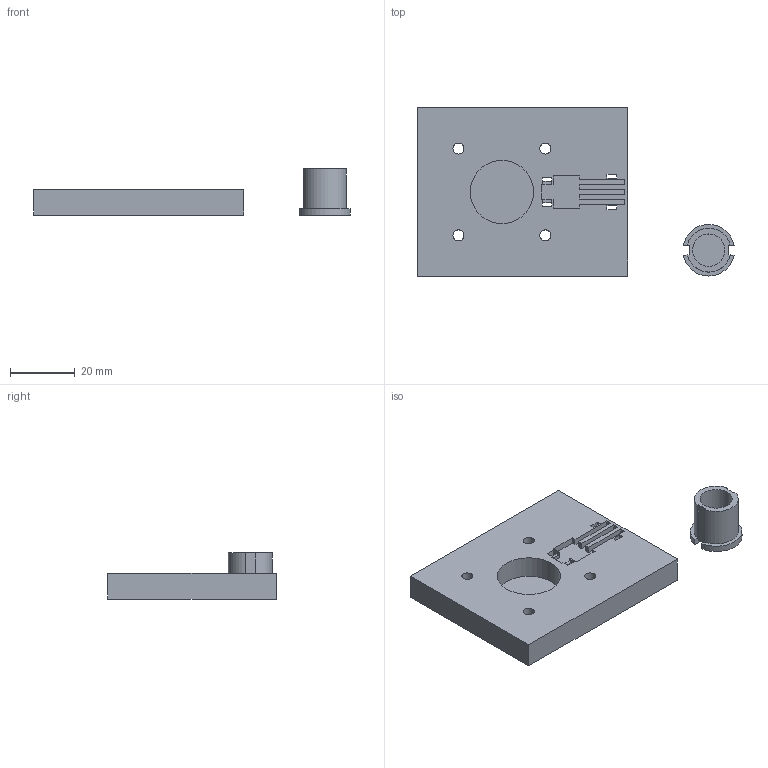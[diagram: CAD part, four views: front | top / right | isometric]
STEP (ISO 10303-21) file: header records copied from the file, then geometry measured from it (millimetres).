
FILE_DESCRIPTION(('Open CASCADE Model'),'2;1');
FILE_NAME('Open CASCADE Shape Model','2026-11-11T17:26:39',('Author'),( 'Open CASCADE'),'Open CASCADE STEP processor 7.9','Open CASCADE 7.9' ,'Unknown');
FILE_SCHEMA(('AUTOMOTIVE_DESIGN { 1 0 10303 214 1 1 1 1 }'));
Length unit declared in the file: millimetre
Products named in the file (3): Open CASCADE STEP translator 7.9 7; Open CASCADE STEP translator 7.9 7.1; Open CASCADE STEP translator 7.9 7.2
Assembly tree (2 placements, depth 2):
  Open CASCADE STEP translator 7.9 7
    Open CASCADE STEP translator 7.9 7.1
    Open CASCADE STEP translator 7.9 7.2
Bounding box: 97.86 x 52 x 14.3 mm (x, y, z)
Volume: 25310.8 mm3; surface area: 11269 mm2
Topology: 2 solids, 2 shells, 71 faces, 198 edges, 132 vertices
Faces by surface type: plane 61, cylinder 10
Full cylindrical faces by diameter (mm): 3.4 x4, 10 x1, 19.6 x1
Entity records: 4920 total; most frequent: CARTESIAN_POINT 836, DIRECTION 756, LINE 554, VECTOR 554, ORIENTED_EDGE 396, PCURVE 396, DEFINITIONAL_REPRESENTATION 396, EDGE_CURVE 198
